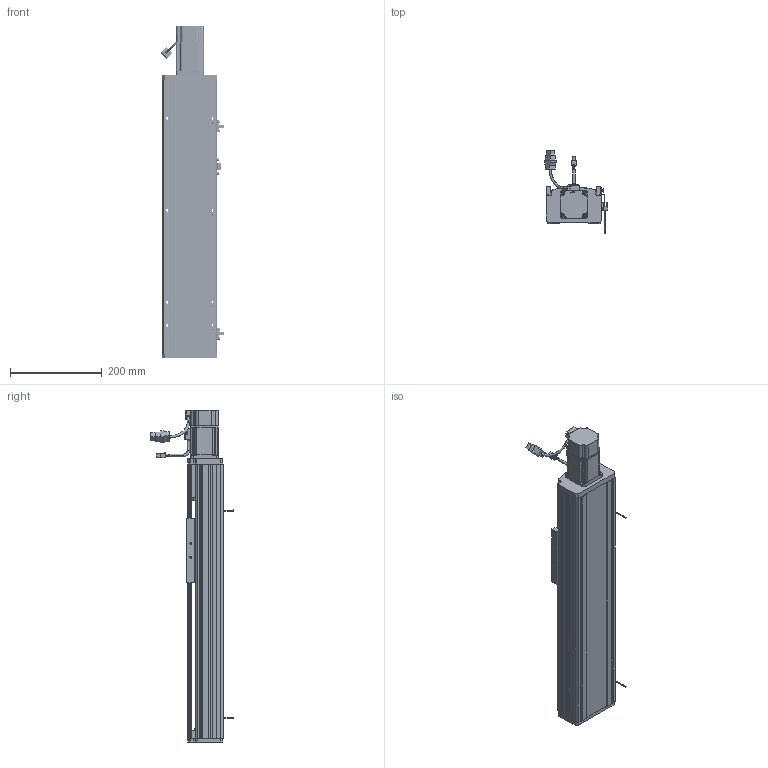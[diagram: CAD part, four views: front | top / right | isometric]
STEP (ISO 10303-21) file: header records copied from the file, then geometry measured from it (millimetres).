
FILE_DESCRIPTION (( 'STEP AP214' ), '1' );
FILE_NAME ('CTH120-350.STEP', '2019-11-20T02:39:08', ( '微软用户' ), ( '微软中国' ), 'SwSTEP 2.0', 'SolidWorks 2017', '' );
FILE_SCHEMA (( 'AUTOMOTIVE_DESIGN' ));
Length unit declared in the file: millimetre
Products named in the file (33): EE-SX672-BR; 120耀郪-粣創釱; M4-L6半圆头内六角螺丝; 120耀郪-傷啣; M5-L20囀鞠褒蹟佪; 120模组-盖子_默认<按加工>; M5-L12囀鞠褒蹟佪; 120耀郪-侜督儂啣; 怢湛200W侜督萇儂ECMA-CX0602ES; SFH1605; 盓傅釱蚾饜极; 136蹟簽蟀諉輸; 6000; 120模组-移动座_默认<按加工>; 120耀郪-盓傅釱; SFH1605-450; M4-L16囀鞠褒蹟佪; 120模组-底座_默认<按加工>; EGH15-CA; EGH15_RAIL; CTH120-350; 珨极宒粣創釱; 遣喳蝶15x12x8; M4-L10囀鞠褒蹟佪; M4-L22囀鞠褒蹟佪; 7001-DB; 7001; 噩砃EGH15-CA; 粣創揤啣; M3-L8囀鞠褒蹟佪; COL12B-粣遠; CT12耀郪-覜茼んえ; 坶踡蹟譫
Assembly tree (90 placements, depth 4):
  CTH120-350
    120模组-底座_默认<按加工>
    SFH1605-450
    120模组-移动座_默认<按加工>
    136蹟簽蟀諉輸
    SFH1605
    120耀郪-侜督儂啣
    120模组-盖子_默认<按加工>
    120耀郪-傷啣
    珨极宒粣創釱
      120耀郪-粣創釱
      坶踡蹟譫
      COL12B-粣遠  x2
      粣創揤啣
      7001-DB
        7001  x2
      M4-L22囀鞠褒蹟佪  x6
      M4-L10囀鞠褒蹟佪  x4
      遣喳蝶15x12x8
    EGH15_RAIL  x2
    EGH15-CA  x2
    M4-L16囀鞠褒蹟佪  x8
    M4-L10囀鞠褒蹟佪  x22
    盓傅釱蚾饜极
      120耀郪-盓傅釱
      6000
      遣喳蝶15x12x8  x2
      M4-L22囀鞠褒蹟佪  x2
    怢湛200W侜督萇儂ECMA-CX0602ES
    M5-L12囀鞠褒蹟佪  x3
    M5-L20囀鞠褒蹟佪  x4
    M4-L6半圆头内六角螺丝  x4
    EE-SX672-BR  x2
    CT12耀郪-覜茼んえ
    M3-L8囀鞠褒蹟佪  x4
    噩砃EGH15-CA  x2
Bounding box: 137.94 x 179.67 x 722 mm (x, y, z)
Volume: 2992439.6 mm3; surface area: 895961.1 mm2
Topology: 87 solids, 96 shells, 5140 faces, 13515 edges, 8637 vertices
Faces by surface type: plane 2807, cylinder 1470, cone 529, bspline 241, torus 81, sphere 12
Entity records: 107724 total; most frequent: CARTESIAN_POINT 31578, ORIENTED_EDGE 15972, DIRECTION 14511, EDGE_CURVE 7986, VERTEX_POINT 5239, AXIS2_PLACEMENT_3D 4917, LINE 4677, VECTOR 4677
